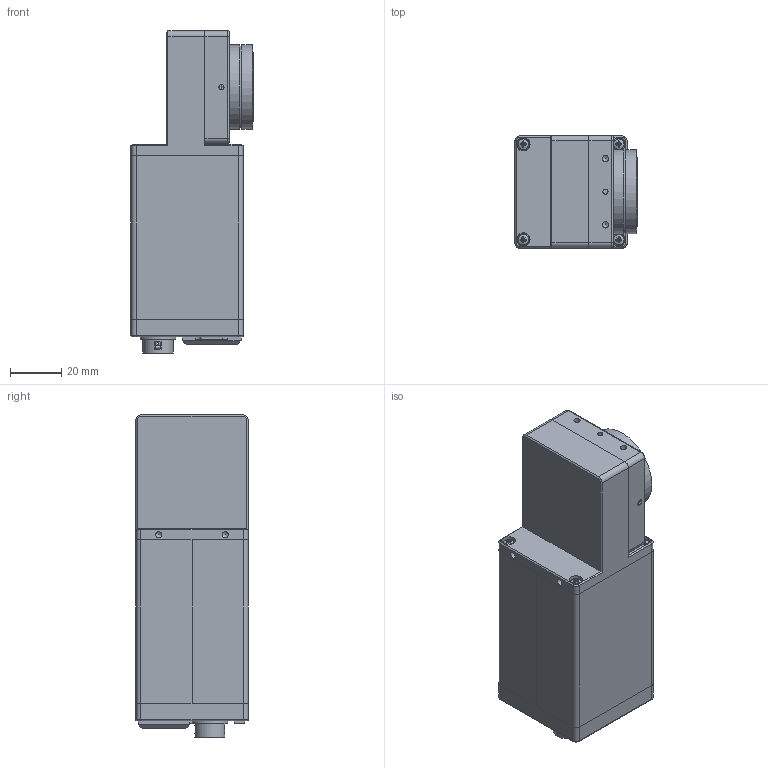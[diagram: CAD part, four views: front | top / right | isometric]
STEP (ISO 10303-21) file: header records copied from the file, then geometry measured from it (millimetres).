
FILE_DESCRIPTION((''),'2;1');
FILE_NAME('K:\Inventor\Kamerafamilien\Pike\STEP-Dateien_Pike\Pike_W270_GOF.stp','2010-03-18T12:05:24',('mressin'),(''),'Autodesk Inventor 11','Autodesk Inventor 11','');
FILE_SCHEMA(('AUTOMOTIVE_DESIGN { 1 0 10303 214 1 1 1 1 }'));
Length unit declared in the file: millimetre
Products named in the file (38): Pike_W270_GOF; K5000967_Pike-Seite rechts_MSZ; K5000968_Pike_Seite-links_GOF_MSZ; K5000779_Pike_Winkeladapter-universal; K4000270_Pike Rückwand-GOF; K5000918_Pike_Rückwand_GOF-PUH; K5100175_OT-Lichtleiter Optical Light Pipe 1,63mm; Pike_Backplane-EMV_2v00_FF; Pike_Backplane-EMV_2v00; Marlin-IO-Board; STECKER-KPL-K7600043; Pinträger-10J43_2; PinB-lang-10J43; PinB-kurz-10J43; Trägerfassung-10J43; HIROSE-12pol-klemmring; HIROSE-12pol-6kt-ring; K5510139_Zylinderschr. mit ISK ISO4762-M2x3-A2; Pike Frontflansch; K5000741_Pike_Frontplatte; Pike_Klemmteil+Filter; K5000742_Pike_C-Mountflansch-Klemmteil_großerSensor; K5100167_Filter_B270(ASG)-24mm; Pike_Sensor_KAI2093_1v10; K5000765_Pike_Sensorauflage_KAI20XX; K8150076_Sensor_KAI2093-ABA-CB-B2_2MP_mono; K5540017_Gewindestift ISO4026-M2,5x6-A2; K5510128_Zylinderschr. mit ISK ISO4762-M2x8-A4; Pike_Mainstack_GOF; Pike_FPGA_2v00; Pike_uC-GOF-EMV_2v40; Pike_uC_GOF_2v00; GOF-Stecker; FW-1fach; Pike_Power_EMV_2v00; Pike_Kodak_AFE_2v20; K5510003_Linsenschraube mit KS ISO7045-M2,5x8-A2-sw
Assembly tree (62 placements, depth 7):
  Pike_W270_GOF
    K5000967_Pike-Seite rechts_MSZ
    K5000968_Pike_Seite-links_GOF_MSZ
    K5000779_Pike_Winkeladapter-universal
    K4000270_Pike Rückwand-GOF
      K5000918_Pike_Rückwand_GOF-PUH
      K5100175_OT-Lichtleiter Optical Light Pipe 1,63mm
      Pike_Backplane-EMV_2v00_FF
        Pike_Backplane-EMV_2v00
        Marlin-IO-Board
          STECKER-KPL-K7600043
            Pinträger-10J43_2
              Pinträger-10J43_2
              PinB-lang-10J43  x3
              PinB-kurz-10J43  x9
            Trägerfassung-10J43
          HIROSE-12pol-klemmring
          HIROSE-12pol-6kt-ring
      K5510139_Zylinderschr. mit ISK ISO4762-M2x3-A2  x2
    Pike Frontflansch
      K5000741_Pike_Frontplatte
      Pike_Klemmteil+Filter
        K5000742_Pike_C-Mountflansch-Klemmteil_großerSensor
        K5100167_Filter_B270(ASG)-24mm
      Pike_Sensor_KAI2093_1v10
      K5000765_Pike_Sensorauflage_KAI20XX
      K8150076_Sensor_KAI2093-ABA-CB-B2_2MP_mono
      K5540017_Gewindestift ISO4026-M2,5x6-A2  x2
      K5510128_Zylinderschr. mit ISK ISO4762-M2x8-A4  x4
    Pike_Mainstack_GOF
      Pike_FPGA_2v00
      Pike_uC-GOF-EMV_2v40
        Pike_uC_GOF_2v00
        GOF-Stecker
        FW-1fach
      Pike_Power_EMV_2v00
      Pike_Kodak_AFE_2v20
    K5510003_Linsenschraube mit KS ISO7045-M2,5x8-A2-sw  x11
Bounding box: 47.9 x 44 x 126.3 mm (x, y, z)
Volume: 84439.9 mm3; surface area: 93299.3 mm2
Topology: 53 solids, 53 shells, 2177 faces, 5561 edges, 3628 vertices
Faces by surface type: plane 1282, bspline 343, cylinder 248, cone 224, torus 69, sphere 11
Full cylindrical faces by diameter (mm): 0.3 x1, 0.5 x13, 0.6 x12, 0.8 x1, 1 x1, 1.1 x12, 1.63 x1, 1.8 x2, 2 x6, 2.256 x11, 2.5 x13, 2.54 x2, 3 x4, 3.8 x6, 4 x2, 6.3 x2, 6.5 x1, 7.5 x1, 8.3 x3, 8.5 x1, 10.2 x1, 10.6 x1, 10.8 x2, 11.8 x1, 14 x2, 16 x1, 22 x1, 24 x1, 24.3 x1, 28.5 x1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
Entity records: 52027 total; most frequent: CARTESIAN_POINT 13531, ORIENTED_EDGE 7946, DIRECTION 6909, EDGE_CURVE 3973, VECTOR 2871, LINE 2871, VERTEX_POINT 2710, AXIS2_PLACEMENT_3D 2019
